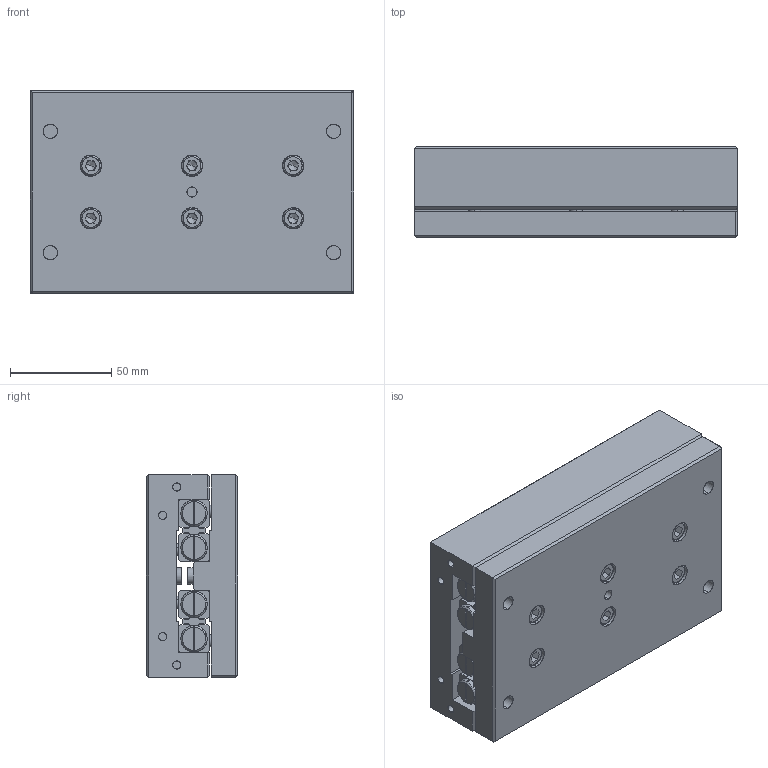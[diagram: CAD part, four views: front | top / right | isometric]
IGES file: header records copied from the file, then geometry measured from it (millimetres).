
Start section: SolidWorks IGES file using analytic representation for surfaces
Global section: file name: C:\Documents and Settings\IanO.IANOHOME\My Documents\Wix and Auto CAD Work\CAD Models\Parametric Models\Auto Models\L1020\L1020_IGES\L1020.100-160.igs; native system: SolidWorks 2009; preprocessor: SolidWorks 2009; author: IanO; date: 110922.162845; units: millimetre
Bounding box: 160 x 45 x 100 mm (x, y, z)
Surface area: 163442 mm2 (no closed solid volume)
Topology: 0 solids, 0 shells, 1108 faces, 15676 edges, 15646 vertices
Faces by surface type: bspline 710, revolution 398
